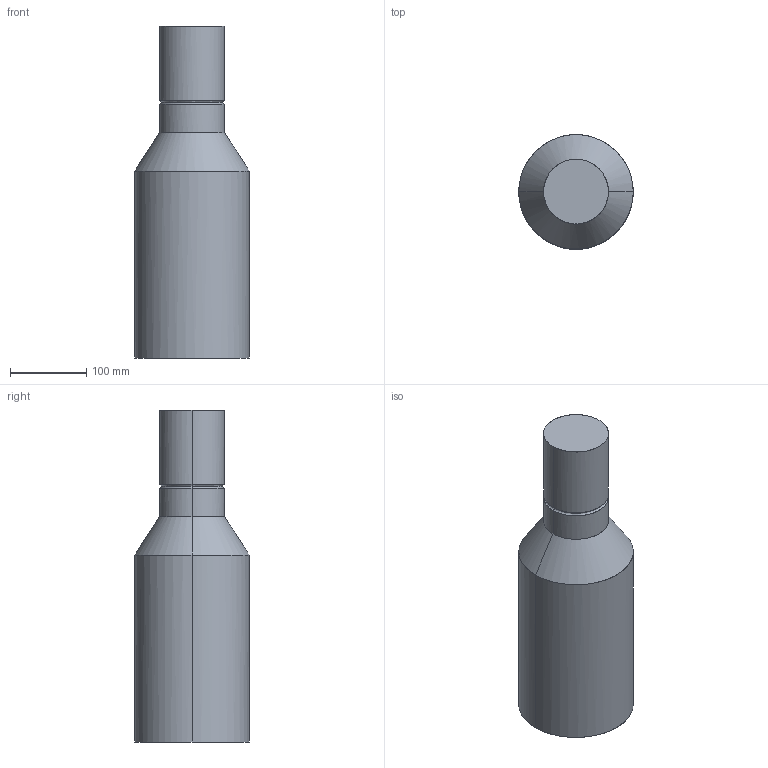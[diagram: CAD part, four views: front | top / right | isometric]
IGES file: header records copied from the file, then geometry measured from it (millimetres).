
Start section: Comment
Global section: file name: pmt.iges; native system:  By UGS Corp.; preprocessor: XPlus GENERIC/IGES 3.0; author: Author; organization: Title; date: 20090504.150454; units: millimetre
Bounding box: 150 x 149.8 x 435 mm (x, y, z)
Surface area: 198881 mm2 (no closed solid volume)
Topology: 0 solids, 0 shells, 14 faces, 52 edges, 52 vertices
Faces by surface type: bspline 14
